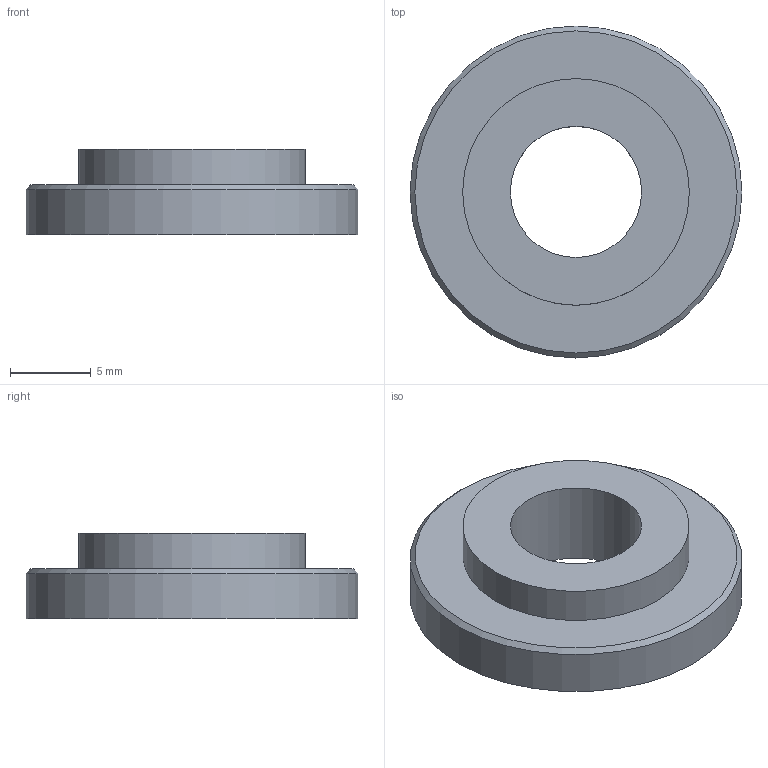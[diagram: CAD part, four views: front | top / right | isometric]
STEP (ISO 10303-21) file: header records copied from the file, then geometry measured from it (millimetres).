
FILE_DESCRIPTION(/* description */ ('Guide Washer'),/* implementation_level */ '2;1');
FILE_NAME(/* name */ 'Z:\Werkstatt Server\Projekte\Atlas\Entwicklung u. Konstruktion\Konstruktion\CAD Daten\ITkPixToolV2.0\Stencil Tool\Spatula\ITPTv2.03.01.04.stp',/* time_stamp */ '2021-08-06T14:08:33+02:00',/* author */ ('Tim Kanngießer'),/* organization */ (''),/* preprocessor_version */ 'ST-DEVELOPER v18.1',/* originating_system */ 'Autodesk Inventor 2022',/* authorisation */ '');
FILE_SCHEMA (('AUTOMOTIVE_DESIGN { 1 0 10303 214 3 1 1 }'));
Length unit declared in the file: millimetre
Products named in the file (1): ITPTv2.03.01.04
Bounding box: 20.5 x 20.5 x 5.3 mm (x, y, z)
Volume: 1085.9 mm3; surface area: 976.9 mm2
Topology: 1 solids, 1 shells, 7 faces, 12 edges, 8 vertices
Faces by surface type: cylinder 3, plane 3, cone 1
Full cylindrical faces by diameter (mm): 8.1 x1, 14 x1, 20.5 x1
Entity records: 219 total; most frequent: DIRECTION 36, CARTESIAN_POINT 28, ORIENTED_EDGE 24, AXIS2_PLACEMENT_3D 16, EDGE_CURVE 12, EDGE_LOOP 10, CIRCLE 8, VERTEX_POINT 8
